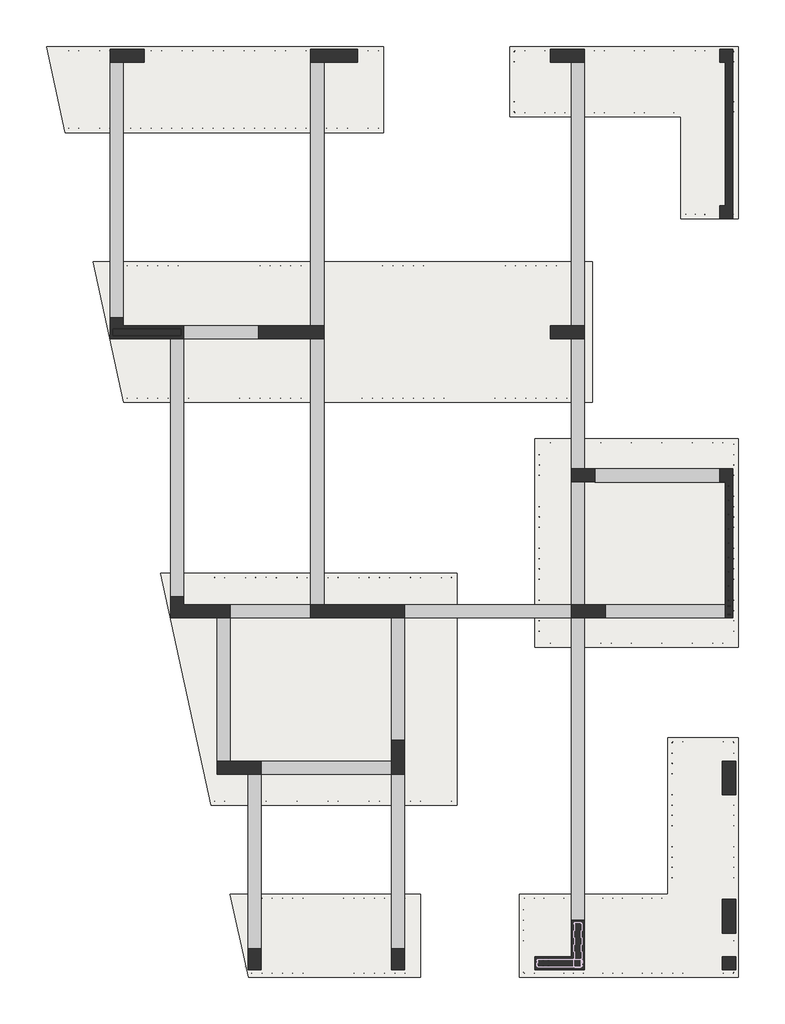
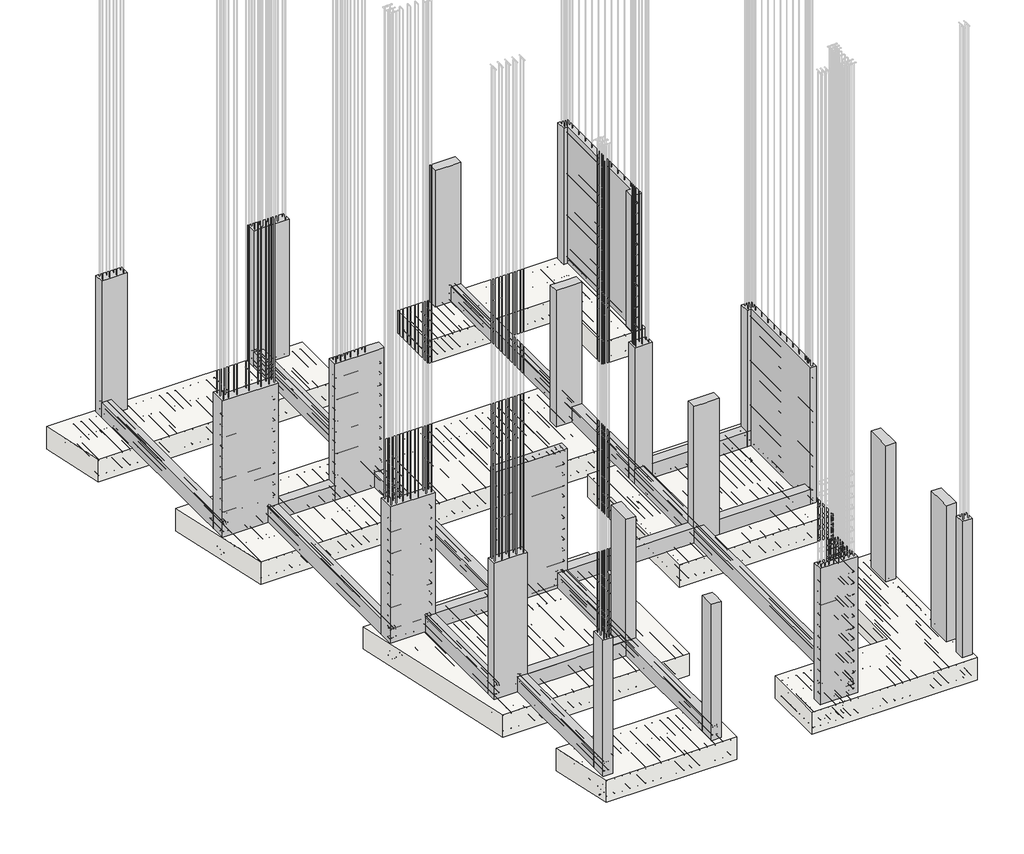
# One storey, part 1 of 8: 20 columns, 18 beams, 7 slabs.
"""IFC4 building model written with IfcOpenShell, lengths in millimetres."""

from ifc_helpers import new_model, si_unit, frame, origin, place, context, project, spatial, polyline, outline, extrude, faceted_brep, transform, mapped, element, save
from components import viga_rectangular_evg_rect_25x40_cm_42ceb3dc, viga_rectangular_evg_rect_25x40_cm_19945e5e, viga_rectangular_evg_rect_25x40_cm_8e48b35e, viga_de_cimentacion_4fc30262, viga_rectangular_evg_rect_25x40_cm_85cacfee, viga_rectangular_evg_rect_25x40_cm_d11aaed7, viga_de_cimentacion_04f7b666, viga_de_cimentacion_d1e64df9, viga_rectangular_evg_rect_25x40_cm_c621c72f, viga_rectangular_evg_rect_25x40_cm_a2aa706d, viga_de_cimentacion_bcbc29ee, viga_rectangular_evg_rect_25x40_cm_961303b6, viga_de_cimentacion_a1d79f26, viga_de_cimentacion_b29c8cc3, viga_rectangular_evg_rect_25x40_cm_6a1f8600, column_29ed4d3a, column_ac66dc5b, column_7e1b7639, column_462acf0a, columna_estructural_rectangular_eco_rect_25x25_cm_3b833be7, columna_estructural_u_eco_u_25x325x25x15_ef9e1a40

model = new_model("IFC4")

# Units and contexts
model_context = context("Model", 3, world=origin())
ifc_project = project(units=[si_unit("LENGTHUNIT", "METRE", prefix="MILLI")], contexts=[model_context])

# Site, building, storey
site = spatial("IfcSite", under=ifc_project)
building = spatial("IfcBuilding", under=site)
storey = spatial("IfcBuildingStorey", under=building, Name="N.S.Z", Elevation=-900.0)

# Beams
placement = place(None, origin())
viga_rectangular_evg_rect_25x40_cm_shape = viga_rectangular_evg_rect_25x40_cm_42ceb3dc(model_context)
element("IfcBeam", 1, ObjectType="Viga de Cimentacion : EVC_Viga de Cimentacion 25x50 cm", at=placement, inside=storey, context=model_context, shape_type="MappedRepresentation", body=[
    mapped(viga_rectangular_evg_rect_25x40_cm_shape, transform((-475.0, 5375.0, -500.0), x_axis=(0.0, 1.0, 0.0), y_axis=(-1.0, 0.0, 0.0), z_axis=(0.0, 0.0, 1.0))),
])
viga_rectangular_evg_rect_25x40_cm_2_shape = viga_rectangular_evg_rect_25x40_cm_19945e5e(model_context)
element("IfcBeam", 2, ObjectType="Viga de Cimentacion : EVC_Viga de Cimentacion 25x50 cm", at=placement, inside=storey, context=model_context, shape_type="MappedRepresentation", body=[
    mapped(viga_rectangular_evg_rect_25x40_cm_2_shape, transform((-2525.0, 14912.5, -500.0), x_axis=(0.0, 1.0, 0.0), y_axis=(-1.0, 0.0, 0.0), z_axis=(0.0, 0.0, 1.0))),
])
viga_rectangular_evg_rect_25x40_cm_3_shape = viga_rectangular_evg_rect_25x40_cm_8e48b35e(model_context)
element("IfcBeam", 3, ObjectType="Viga de Cimentacion : EVC_Viga de Cimentacion 25x50 cm", at=placement, inside=storey, context=model_context, shape_type="MappedRepresentation", body=[
    mapped(viga_rectangular_evg_rect_25x40_cm_3_shape, transform((1325.0, 14875.0, -500.0), x_axis=(0.0, 1.0, 0.0), y_axis=(-1.0, 0.0, 0.0), z_axis=(0.0, 0.0, 1.0))),
])
element("IfcBeam", 4, ObjectType="Viga de Cimentacion : EVC_Viga de Cimentacion 25x50 cm", at=placement, inside=storey, context=model_context, shape_type="MappedRepresentation", body=[
    mapped(viga_rectangular_evg_rect_25x40_cm_3_shape, transform((6325.0, 14875.0, -500.0), x_axis=(0.0, 1.0, 0.0), y_axis=(-1.0, 0.0, 0.0), z_axis=(0.0, 0.0, 1.0))),
])
viga_de_cimentacion_shape = viga_de_cimentacion_4fc30262(model_context)
element("IfcBeam", 5, ObjectType="Viga de Cimentacion : EVC_Viga de Cimentacion 25x50 cm", at=placement, inside=storey, context=model_context, shape_type="MappedRepresentation", body=[
    mapped(viga_de_cimentacion_shape, transform((-1365.0, 9587.5, -500.0), x_axis=(0.0, -1.0, 0.0), y_axis=(1.0, 0.0, 0.0), z_axis=(0.0, 0.0, 1.0))),
])
viga_rectangular_evg_rect_25x40_cm_4_shape = viga_rectangular_evg_rect_25x40_cm_85cacfee(model_context)
element("IfcBeam", 6, ObjectType="Viga de Cimentacion : EVC_Viga de Cimentacion 25x50 cm", at=placement, inside=storey, context=model_context, shape_type="MappedRepresentation", body=[
    mapped(viga_rectangular_evg_rect_25x40_cm_4_shape, transform((1325.0, 9550.0, -500.0), x_axis=(0.0, -1.0, 0.0), y_axis=(1.0, 0.0, 0.0), z_axis=(0.0, 0.0, 1.0))),
])
viga_rectangular_evg_rect_25x40_cm_5_shape = viga_rectangular_evg_rect_25x40_cm_d11aaed7(model_context)
element("IfcBeam", 7, ObjectType="Viga de Cimentacion : EVC_Viga de Cimentacion 25x50 cm", at=placement, inside=storey, context=model_context, shape_type="MappedRepresentation", body=[
    mapped(viga_rectangular_evg_rect_25x40_cm_5_shape, transform((6325.0, 10850.0, -500.0), x_axis=(0.0, -1.0, 0.0), y_axis=(1.0, 0.0, 0.0), z_axis=(0.0, 0.0, 1.0))),
])
element("IfcBeam", 8, ObjectType="Viga de Cimentacion : EVC_Viga de Cimentacion 25x50 cm", at=placement, inside=storey, context=model_context, shape_type="MappedRepresentation", body=[
    mapped(viga_rectangular_evg_rect_25x40_cm_5_shape, transform((1500.0, 3875.0, -500.0), x_axis=(1.0, 0.0, 0.0), y_axis=(0.0, 1.0, 0.0), z_axis=(0.0, 0.0, 1.0))),
])
viga_de_cimentacion_2_shape = viga_de_cimentacion_04f7b666(model_context)
element("IfcBeam", 9, ObjectType="Viga de Cimentacion : EVC_Viga de Cimentacion 25x50 cm", at=placement, inside=storey, context=model_context, shape_type="MappedRepresentation", body=[
    mapped(viga_de_cimentacion_2_shape, transform((4212.5, 6875.0, -500.0), x_axis=(1.0, 0.0, 0.0), y_axis=(0.0, 1.0, 0.0), z_axis=(0.0, 0.0, 1.0))),
])
viga_de_cimentacion_3_shape = viga_de_cimentacion_d1e64df9(model_context)
element("IfcBeam", 10, ObjectType="Viga de Cimentacion : EVC_Viga de Cimentacion 25x50 cm", at=placement, inside=storey, context=model_context, shape_type="MappedRepresentation", body=[
    mapped(viga_de_cimentacion_3_shape, transform((6325.0, 8175.0, -500.0), x_axis=(0.0, -1.0, 0.0), y_axis=(1.0, 0.0, 0.0), z_axis=(0.0, 0.0, 1.0))),
])
viga_rectangular_evg_rect_25x40_cm_6_shape = viga_rectangular_evg_rect_25x40_cm_c621c72f(model_context)
element("IfcBeam", 11, ObjectType="Viga de Cimentacion : EVC_Viga de Cimentacion 25x50 cm", at=placement, inside=storey, context=model_context, shape_type="MappedRepresentation", body=[
    mapped(viga_rectangular_evg_rect_25x40_cm_6_shape, transform((125.0, 2037.5, -500.0), x_axis=(0.0, 1.0, 0.0), y_axis=(-1.0, 0.0, 0.0), z_axis=(0.0, 0.0, 1.0))),
])
element("IfcBeam", 12, ObjectType="Viga de Cimentacion : EVC_Viga de Cimentacion 25x50 cm", at=placement, inside=storey, context=model_context, shape_type="MappedRepresentation", body=[
    mapped(viga_rectangular_evg_rect_25x40_cm_6_shape, transform((2875.0, 2037.5, -500.0), x_axis=(0.0, 1.0, 0.0), y_axis=(-1.0, 0.0, 0.0), z_axis=(0.0, 0.0, 1.0))),
])
viga_rectangular_evg_rect_25x40_cm_7_shape = viga_rectangular_evg_rect_25x40_cm_a2aa706d(model_context)
element("IfcBeam", 13, ObjectType="Viga de Cimentacion : EVC_Viga de Cimentacion 25x50 cm", at=placement, inside=storey, context=model_context, shape_type="MappedRepresentation", body=[
    mapped(viga_rectangular_evg_rect_25x40_cm_7_shape, transform((2875.0, 5475.0, -500.0), x_axis=(0.0, 1.0, 0.0), y_axis=(-1.0, 0.0, 0.0), z_axis=(0.0, 0.0, 1.0))),
])
viga_de_cimentacion_4_shape = viga_de_cimentacion_bcbc29ee(model_context)
element("IfcBeam", 14, ObjectType="Viga de Cimentacion : EVC_Viga de Cimentacion 25x50 cm", at=placement, inside=storey, context=model_context, shape_type="MappedRepresentation", body=[
    mapped(viga_de_cimentacion_4_shape, transform((6325.0, 3675.0, -500.0), x_axis=(0.0, -1.0, 0.0), y_axis=(1.0, 0.0, 0.0), z_axis=(0.0, 0.0, 1.0))),
])
viga_rectangular_evg_rect_25x40_cm_8_shape = viga_rectangular_evg_rect_25x40_cm_961303b6(model_context)
element("IfcBeam", 15, ObjectType="Viga de Cimentacion : EVC_Viga de Cimentacion 25x50 cm", at=placement, inside=storey, context=model_context, shape_type="MappedRepresentation", body=[
    mapped(viga_rectangular_evg_rect_25x40_cm_8_shape, transform((7875.0, 6875.0, -500.0), x_axis=(1.0, 0.0, 0.0), y_axis=(0.0, 1.0, 0.0), z_axis=(0.0, 0.0, 1.0))),
])
viga_de_cimentacion_5_shape = viga_de_cimentacion_a1d79f26(model_context)
element("IfcBeam", 16, ObjectType="Viga de Cimentacion : EVC_Viga de Cimentacion 25x50 cm", at=placement, inside=storey, context=model_context, shape_type="MappedRepresentation", body=[
    mapped(viga_de_cimentacion_5_shape, transform((7800.0, 9475.0, -500.0), x_axis=(1.0, 0.0, 0.0), y_axis=(0.0, 1.0, 0.0), z_axis=(0.0, 0.0, 1.0))),
])
viga_de_cimentacion_6_shape = viga_de_cimentacion_b29c8cc3(model_context)
element("IfcBeam", 17, ObjectType="Viga de Cimentacion : EVC_Viga de Cimentacion 25x50 cm", at=placement, inside=storey, context=model_context, shape_type="MappedRepresentation", body=[
    mapped(viga_de_cimentacion_6_shape, transform((425.0, 6875.0, -500.0), x_axis=(1.0, 0.0, 0.0), y_axis=(0.0, 1.0, 0.0), z_axis=(0.0, 0.0, 1.0))),
])
viga_rectangular_evg_rect_25x40_cm_9_shape = viga_rectangular_evg_rect_25x40_cm_6a1f8600(model_context)
element("IfcBeam", 18, ObjectType="Viga de Cimentacion : EVC_Viga de Cimentacion 25x50 cm", at=placement, inside=storey, context=model_context, shape_type="MappedRepresentation", body=[
    mapped(viga_rectangular_evg_rect_25x40_cm_9_shape, transform((-560.0, 12225.0, -500.0), x_axis=(1.0, 0.0, 0.0), y_axis=(0.0, 1.0, 0.0), z_axis=(0.0, 0.0, 1.0))),
])

# Columns
column_shape = column_29ed4d3a(model_context)
element("IfcColumn", 19, ObjectType="Columna Estructural Ele : ECO_Ele 40x141x25", at=placement, inside=storey, context=model_context, shape_type="MappedRepresentation", body=[
    mapped(column_shape, transform((-2525.0, 12225.0, 0.0), x_axis=(1.0, 0.0, 0.0), y_axis=(0.0, 1.0, 0.0), z_axis=(0.0, 0.0, 1.0))),
])
column_2_shape = column_ac66dc5b(model_context)
element("IfcColumn", 20, ObjectType="Columna Estructural Ele : ECO_Ele 40x114x25", at=placement, inside=storey, context=model_context, shape_type="MappedRepresentation", body=[
    mapped(column_2_shape, transform((-1365.0, 6875.0, 0.0), x_axis=(1.0, 0.0, 0.0), y_axis=(0.0, 1.0, 0.0), z_axis=(0.0, 0.0, 1.0))),
])
column_3_shape = column_7e1b7639(model_context)
element("IfcColumn", 21, ObjectType="Columna Estructural Ele : ECO_Ele 25x285x25", at=placement, inside=storey, context=model_context, shape_type="MappedRepresentation", body=[
    mapped(column_3_shape, transform((9225.0, 9475.0, 0.0), x_axis=(0.0, -1.0, 0.0), y_axis=(1.0, 0.0, 0.0), z_axis=(0.0, 0.0, 1.0))),
])
column_4_shape = column_462acf0a(model_context)
element("IfcColumn", 22, ObjectType="Columna Estructural Ele : ECO_Ele 95x95x25", at=placement, inside=storey, context=model_context, shape_type="MappedRepresentation", body=[
    mapped(column_4_shape, transform((6325.0, 125.0, 0.0), x_axis=(0.0, 1.0, 0.0), y_axis=(-1.0, 0.0, 0.0), z_axis=(0.0, 0.0, 1.0))),
])
element("IfcColumn", 23, ObjectType="Columna Estructural Rectangular : ECO_Rect. 25x125 cm", at=placement, inside=storey, context=model_context, shape_type="Brep", body=[
    faceted_brep([(200.0, 12350.0, -900.0), (1450.0, 12350.0, -900.0), (1450.0, 12100.0, -900.0), (200.0, 12100.0, -900.0), (200.0, 12350.0, 2750.0), (1200.0, 12350.0, 2750.0), (1450.0, 12350.0, 2750.0), (1450.0, 12100.0, 2750.0), (1200.0, 12100.0, 2750.0), (200.0, 12100.0, 2750.0)], [[[0, 1, 2, 3]], [[4, 5, 6, 1, 0]], [[6, 7, 2, 1]], [[7, 8, 9, 3, 2]], [[9, 4, 0, 3]], [[4, 9, 8, 7, 6, 5]]]),
])
element("IfcColumn", 24, ObjectType="Columna Estructural Rectangular : ECO_Rect. 25x180 cm", at=placement, inside=storey, context=model_context, shape_type="Brep", body=[
    faceted_brep([(1200.0, 7000.0, -900.0), (3000.0, 7000.0, -900.0), (3000.0, 6750.0, -900.0), (1200.0, 6750.0, -900.0), (1200.0, 7000.0, 2750.0), (1450.0, 7000.0, 2750.0), (3000.0, 7000.0, 2750.0), (3000.0, 6750.0, 2750.0), (2750.0, 6750.0, 2750.0), (1200.0, 6750.0, 2750.0)], [[[0, 1, 2, 3]], [[4, 5, 6, 1, 0]], [[6, 7, 2, 1]], [[7, 8, 9, 3, 2]], [[9, 4, 0, 3]], [[4, 9, 8, 7, 6, 5]]]),
])
columna_estructural_rectangular_eco_rect_25x25_cm_shape = columna_estructural_rectangular_eco_rect_25x25_cm_3b833be7(model_context)
element("IfcColumn", 25, ObjectType="Columna Estructural Rectangular : ECO_Rect. 25x25 cm", at=placement, inside=storey, context=model_context, shape_type="MappedRepresentation", body=[
    mapped(columna_estructural_rectangular_eco_rect_25x25_cm_shape, transform((9225.0, 125.0, 0.0), x_axis=(-1.0, 0.0, 0.0), y_axis=(0.0, -1.0, 0.0), z_axis=(0.0, 0.0, 1.0))),
])
element("IfcColumn", 26, ObjectType="Columna Estructural Rectangular : ECO_Rect. 25x40 cm", at=placement, inside=storey, context=model_context, shape_type="Brep", body=[
    faceted_brep([(0.0, 0.0, -900.0), (0.0, 400.0, -900.0), (250.0, 400.0, -900.0), (250.0, 0.0, -900.0), (0.0, 0.0, 2750.0), (0.0, 400.0, 2750.0), (250.0, 400.0, 2750.0), (250.0, 250.0, 2750.0), (250.0, 0.0, 2750.0)], [[[0, 1, 2, 3]], [[4, 5, 1, 0]], [[5, 6, 2, 1]], [[6, 7, 8, 3, 2]], [[8, 4, 0, 3]], [[4, 8, 7, 6, 5]]]),
])
element("IfcColumn", 27, ObjectType="Columna Estructural Rectangular : ECO_Rect. 25x40 cm", at=placement, inside=storey, context=model_context, shape_type="Brep", body=[
    faceted_brep([(2750.0, 0.0, -900.0), (2750.0, 400.0, -900.0), (3000.0, 400.0, -900.0), (3000.0, 0.0, -900.0), (2750.0, 0.0, 2750.0), (2750.0, 250.0, 2750.0), (2750.0, 400.0, 2750.0), (3000.0, 400.0, 2750.0), (3000.0, 250.0, 2750.0), (3000.0, 0.0, 2750.0)], [[[0, 1, 2, 3]], [[4, 5, 6, 1, 0]], [[6, 7, 2, 1]], [[7, 8, 9, 3, 2]], [[9, 4, 0, 3]], [[4, 9, 8, 7, 6, 5]]]),
])
element("IfcColumn", 28, ObjectType="Columna Estructural Rectangular : ECO_Rect. 25x45 cm", at=placement, inside=storey, context=model_context, shape_type="SweptSolid", body=[
    extrude(outline(polyline([(6200.0, 9600.0), (6650.0, 9600.0), (6650.0, 9350.0), (6200.0, 9350.0), (6200.0, 9600.0)])), frame((0.0, 0.0, -900.0), z_axis=(0.0, 0.0, 1.0), x_axis=(1.0, 0.0, 0.0)), (0.0, 0.0, 1.0), 3650.0),
])
element("IfcColumn", 29, ObjectType="Columna Estructural Rectangular : ECO_Rect. 25x65 cm", at=placement, inside=storey, context=model_context, shape_type="Brep", body=[
    faceted_brep([(-2650.0, 17650.0, -900.0), (-2000.0, 17650.0, -900.0), (-2000.0, 17400.0, -900.0), (-2650.0, 17400.0, -900.0), (-2650.0, 17650.0, 2750.0), (-2000.0, 17650.0, 2750.0), (-2000.0, 17400.0, 2750.0), (-2400.0, 17400.0, 2750.0), (-2650.0, 17400.0, 2750.0)], [[[0, 1, 2, 3]], [[4, 5, 1, 0]], [[5, 6, 2, 1]], [[6, 7, 8, 3, 2]], [[8, 4, 0, 3]], [[4, 8, 7, 6, 5]]]),
])
element("IfcColumn", 30, ObjectType="Columna Estructural Rectangular : ECO_Rect. 25x65 cm", at=placement, inside=storey, context=model_context, shape_type="Brep", body=[
    faceted_brep([(5800.0, 17650.0, -900.0), (6450.0, 17650.0, -900.0), (6450.0, 17400.0, -900.0), (5800.0, 17400.0, -900.0), (5800.0, 17650.0, 2750.0), (6450.0, 17650.0, 2750.0), (6450.0, 17400.0, 2750.0), (6200.0, 17400.0, 2750.0), (5800.0, 17400.0, 2750.0)], [[[0, 1, 2, 3]], [[4, 5, 1, 0]], [[5, 6, 2, 1]], [[6, 7, 8, 3, 2]], [[8, 4, 0, 3]], [[4, 8, 7, 6, 5]]]),
])
element("IfcColumn", 31, ObjectType="Columna Estructural Rectangular : ECO_Rect. 25x65 cm", at=placement, inside=storey, context=model_context, shape_type="Brep", body=[
    faceted_brep([(5800.0, 12350.0, -900.0), (6450.0, 12350.0, -900.0), (6450.0, 12100.0, -900.0), (5800.0, 12100.0, -900.0), (5800.0, 12350.0, 2750.0), (6200.0, 12350.0, 2750.0), (6450.0, 12350.0, 2750.0), (6450.0, 12100.0, 2750.0), (6200.0, 12100.0, 2750.0), (5800.0, 12100.0, 2750.0)], [[[0, 1, 2, 3]], [[4, 5, 6, 1, 0]], [[6, 7, 2, 1]], [[7, 8, 9, 3, 2]], [[9, 4, 0, 3]], [[4, 9, 8, 7, 6, 5]]]),
])
element("IfcColumn", 32, ObjectType="Columna Estructural Rectangular : ECO_Rect. 25x65 cm", at=placement, inside=storey, context=model_context, shape_type="Brep", body=[
    faceted_brep([(6200.0, 7000.0, -900.0), (6850.0, 7000.0, -900.0), (6850.0, 6750.0, -900.0), (6200.0, 6750.0, -900.0), (6200.0, 7000.0, 2750.0), (6850.0, 7000.0, 2750.0), (6850.0, 6750.0, 2750.0), (6450.0, 6750.0, 2750.0), (6200.0, 6750.0, 2750.0)], [[[0, 1, 2, 3]], [[4, 5, 1, 0]], [[5, 6, 2, 1]], [[6, 7, 8, 3, 2]], [[8, 4, 0, 3]], [[4, 8, 7, 6, 5]]]),
])
element("IfcColumn", 33, ObjectType="Columna Estructural Rectangular : ECO_Rect. 25x65 cm", at=placement, inside=storey, context=model_context, shape_type="Brep", body=[
    faceted_brep([(2750.0, 3750.0, -900.0), (2750.0, 4400.0, -900.0), (3000.0, 4400.0, -900.0), (3000.0, 3750.0, -900.0), (2750.0, 3750.0, 2750.0), (2750.0, 4000.0, 2750.0), (2750.0, 4400.0, 2750.0), (3000.0, 4400.0, 2750.0), (3000.0, 4000.0, 2750.0), (3000.0, 3750.0, 2750.0)], [[[0, 1, 2, 3]], [[4, 5, 6, 1, 0]], [[6, 7, 2, 1]], [[7, 8, 9, 3, 2]], [[9, 4, 0, 3]], [[4, 9, 8, 7, 6, 5]]]),
])
element("IfcColumn", 34, ObjectType="Columna Estructural Rectangular : ECO_Rect. 25x65 cm", at=placement, inside=storey, context=model_context, shape_type="Brep", body=[
    faceted_brep([(9100.0, 3350.0, -900.0), (9100.0, 4000.0, -900.0), (9350.0, 4000.0, -900.0), (9350.0, 3350.0, -900.0), (9100.0, 3350.0, 2750.0), (9100.0, 3750.0, 2750.0), (9100.0, 4000.0, 2750.0), (9150.0, 4000.0, 2750.0), (9350.0, 4000.0, 2750.0), (9350.0, 3350.0, 2750.0)], [[[0, 1, 2, 3]], [[4, 5, 6, 1, 0]], [[6, 7, 8, 2, 1]], [[8, 9, 3, 2]], [[9, 4, 0, 3]], [[4, 9, 8, 7, 6, 5]]]),
])
element("IfcColumn", 35, ObjectType="Columna Estructural Rectangular : ECO_Rect. 25x65 cm", at=placement, inside=storey, context=model_context, shape_type="Brep", body=[
    faceted_brep([(9100.0, 700.0, -900.0), (9100.0, 1350.0, -900.0), (9350.0, 1350.0, -900.0), (9350.0, 700.0, -900.0), (9100.0, 700.0, 2750.0), (9100.0, 950.0, 2750.0), (9100.0, 1350.0, 2750.0), (9350.0, 1350.0, 2750.0), (9350.0, 700.0, 2750.0)], [[[0, 1, 2, 3]], [[4, 5, 6, 1, 0]], [[6, 7, 2, 1]], [[7, 8, 3, 2]], [[8, 4, 0, 3]], [[4, 8, 7, 6, 5]]]),
])
element("IfcColumn", 36, ObjectType="Columna Estructural Rectangular : ECO_Rect. 25x85 cm", at=placement, inside=storey, context=model_context, shape_type="Brep", body=[
    faceted_brep([(-600.0, 4000.0, -900.0), (250.0, 4000.0, -900.0), (250.0, 3750.0, -900.0), (-600.0, 3750.0, -900.0), (-600.0, 4000.0, 2750.0), (-350.0, 4000.0, 2750.0), (250.0, 4000.0, 2750.0), (250.0, 3750.0, 2750.0), (0.0, 3750.0, 2750.0), (-600.0, 3750.0, 2750.0), (-600.0, 3750.0, 2550.0)], [[[0, 1, 2, 3]], [[4, 5, 6, 1, 0]], [[6, 7, 2, 1]], [[7, 8, 9, 10, 3, 2]], [[9, 4, 0, 3, 10]], [[4, 9, 8, 7, 6, 5]]]),
])
element("IfcColumn", 37, ObjectType="Columna Estructural Rectangular : ECO_Rect. 25x90 cm", at=placement, inside=storey, context=model_context, shape_type="Brep", body=[
    faceted_brep([(1200.0, 17650.0, -900.0), (2100.0, 17650.0, -900.0), (2100.0, 17400.0, -900.0), (1200.0, 17400.0, -900.0), (1200.0, 17650.0, 2750.0), (2100.0, 17650.0, 2750.0), (2100.0, 17400.0, 2750.0), (1450.0, 17400.0, 2750.0), (1200.0, 17400.0, 2750.0)], [[[0, 1, 2, 3]], [[4, 5, 1, 0]], [[5, 6, 2, 1]], [[6, 7, 8, 3, 2]], [[8, 4, 0, 3]], [[4, 8, 7, 6, 5]]]),
])
columna_estructural_u_eco_u_25x325x25x15_shape = columna_estructural_u_eco_u_25x325x25x15_ef9e1a40(model_context)
element("IfcColumn", 38, ObjectType="Columna Estructural U : ECO_U 25x325x25x15", at=placement, inside=storey, context=model_context, shape_type="MappedRepresentation", body=[
    mapped(columna_estructural_u_eco_u_25x325x25x15_shape, transform((9225.0, 16025.0, 0.0), x_axis=(0.0, 1.0, 0.0), y_axis=(-1.0, 0.0, 0.0), z_axis=(0.0, 0.0, 1.0))),
])

# Slabs
element("IfcSlab", 39, ObjectType="EZP_Zapata e=60cm", at=placement, inside=storey, context=model_context, shape_type="SweptSolid", body=[
    extrude(outline(polyline([(2599.1501416, 17700.0), (2599.1501416, 16050.0), (-3512.8045326, 16050.0), (-3870.8498584, 17700.0), (2599.1501416, 17700.0)])), frame((0.0, 0.0, -1500.0), z_axis=(0.0, 0.0, 1.0), x_axis=(1.0, 0.0, 0.0)), (0.0, 0.0, 1.0), 600.0),
])
element("IfcSlab", 40, ObjectType="EZP_Zapata e=60cm", at=placement, inside=storey, context=model_context, shape_type="SweptSolid", body=[
    extrude(outline(polyline([(5020.0, 17700.0), (9400.0, 17700.0), (9400.0, 14400.0), (8300.0, 14400.0), (8300.0, 16350.0), (5020.0, 16350.0), (5020.0, 17700.0)])), frame((0.0, 0.0, -1500.0), z_axis=(0.0, 0.0, 1.0), x_axis=(1.0, 0.0, 0.0)), (0.0, 0.0, 1.0), 600.0),
])
element("IfcSlab", 41, ObjectType="EZP_Zapata e=60cm", at=placement, inside=storey, context=model_context, shape_type="SweptSolid", body=[
    extrude(outline(polyline([(6600.0, 10875.0), (-2389.8441926, 10875.0), (-2975.7365439, 13575.0), (6600.0, 13575.0), (6600.0, 10875.0)])), frame((0.0, 0.0, -1500.0), z_axis=(0.0, 0.0, 1.0), x_axis=(1.0, 0.0, 0.0)), (0.0, 0.0, 1.0), 600.0),
])
element("IfcSlab", 42, ObjectType="EZP_Zapata e=60cm", at=placement, inside=storey, context=model_context, shape_type="SweptSolid", body=[
    extrude(outline(polyline([(9400.0, 10180.0), (9400.0, 6180.0), (5500.0, 6180.0), (5500.0, 10180.0), (9400.0, 10180.0)])), frame((0.0, 0.0, -1500.0), z_axis=(0.0, 0.0, 1.0), x_axis=(1.0, 0.0, 0.0)), (0.0, 0.0, 1.0), 600.0),
])
element("IfcSlab", 43, ObjectType="EZP_Zapata e=60cm", at=placement, inside=storey, context=model_context, shape_type="SweptSolid", body=[
    extrude(outline(polyline([(4000.0, 7600.0), (4000.0, 3150.0), (-713.5410765, 3150.0), (-1679.1784703, 7600.0), (4000.0, 7600.0)])), frame((0.0, 0.0, -1500.0), z_axis=(0.0, 0.0, 1.0), x_axis=(1.0, 0.0, 0.0)), (0.0, 0.0, 1.0), 600.0),
])
element("IfcSlab", 44, ObjectType="EZP_Zapata e=60cm", at=placement, inside=storey, context=model_context, shape_type="SweptSolid", body=[
    extrude(outline(polyline([(3302.5495751, -150.0), (2.5495751, -150.0), (-344.6458924, 1450.0), (3302.5495751, 1450.0), (3302.5495751, -150.0)])), frame((0.0, 0.0, -1500.0), z_axis=(0.0, 0.0, 1.0), x_axis=(1.0, 0.0, 0.0)), (0.0, 0.0, 1.0), 600.0),
])
element("IfcSlab", 45, ObjectType="EZP_Zapata e=60cm", at=placement, inside=storey, context=model_context, shape_type="SweptSolid", body=[
    extrude(outline(polyline([(5200.0, -150.0), (5200.0, 1450.0), (8050.0, 1450.0), (8050.0, 4450.0), (9400.0, 4450.0), (9400.0, -150.0), (5200.0, -150.0)])), frame((0.0, 0.0, -1500.0), z_axis=(0.0, 0.0, 1.0), x_axis=(1.0, 0.0, 0.0)), (0.0, 0.0, 1.0), 600.0),
])

save(model, "model.ifc")
